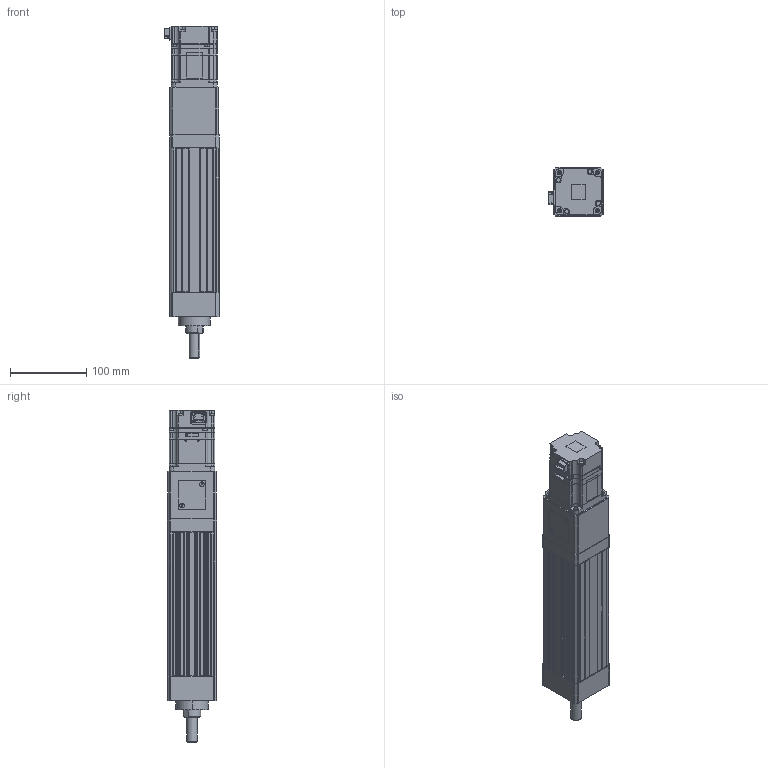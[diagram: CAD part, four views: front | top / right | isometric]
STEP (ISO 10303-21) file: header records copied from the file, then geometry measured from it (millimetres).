
FILE_DESCRIPTION (( 'STEP AP203' ), '1' );
FILE_NAME ('ANS065-S100-05(10)-W20-M.STEP', '2019-03-03T05:42:48', ( 'user' ), ( '' ), 'SwSTEP 2.0', 'SolidWorks 2013', '' );
FILE_SCHEMA (( 'CONFIG_CONTROL_DESIGN' ));
Length unit declared in the file: millimetre
Products named in the file (4): ANS065-S100-05(10)-W20-M; ANS065 S100 VER2; sgmjv_02a_a21; ANS065 ROD ST100-M
Assembly tree (3 placements, depth 2):
  ANS065-S100-05(10)-W20-M
    ANS065 S100 VER2
    sgmjv_02a_a21
    ANS065 ROD ST100-M
Bounding box: 71.3 x 65 x 434.6 mm (x, y, z)
Volume: 1044737 mm3; surface area: 222579 mm2
Topology: 3 solids, 7 shells, 1081 faces, 2861 edges, 1841 vertices
Faces by surface type: plane 637, cylinder 358, cone 86
Entity records: 33609 total; most frequent: CARTESIAN_POINT 5983, DIRECTION 5713, ORIENTED_EDGE 5674, EDGE_CURVE 2837, LINE 2007, VECTOR 2007, AXIS2_PLACEMENT_3D 1853, VERTEX_POINT 1841
